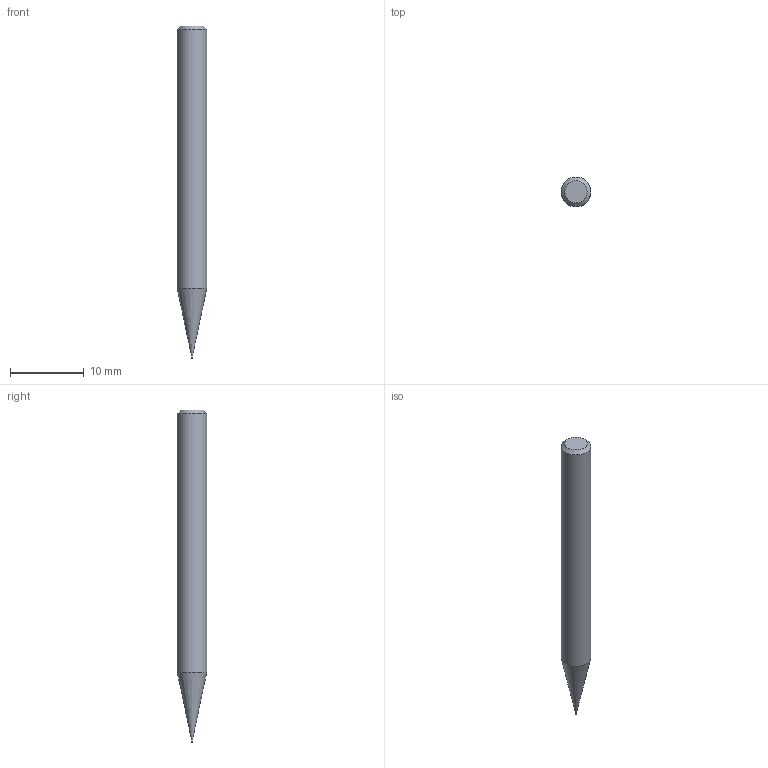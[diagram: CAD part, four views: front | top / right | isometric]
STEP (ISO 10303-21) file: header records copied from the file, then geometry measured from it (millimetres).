
FILE_DESCRIPTION((''),'2;1');
FILE_NAME('C:\Users\nsx150\AppData\Local\Temp\Mastercam 2021\RJ5U8K7RMU\TEMP.step','2021-04-21T16:39:14',(''),(''),'STEP Write','Mastercam 2021 ... CNC Software, Inc.','');
FILE_SCHEMA(('AUTOMOTIVE_DESIGN'));
Length unit declared in the file: millimetre
Products named in the file (1): None
Bounding box: 4 x 4 x 45 mm (x, y, z)
Volume: 485.3 mm3; surface area: 516.4 mm2
Topology: 2 solids, 2 shells, 9 faces, 12 edges, 7 vertices
Faces by surface type: plane 4, cylinder 3, cone 2
Full cylindrical faces by diameter (mm): 0.13 x1, 0.15 x1, 4 x1
Entity records: 211 total; most frequent: DIRECTION 36, CARTESIAN_POINT 25, AXIS2_PLACEMENT_3D 18, ORIENTED_EDGE 14, EDGE_LOOP 14, STYLED_ITEM 12, ADVANCED_FACE 9, FACE_BOUND 8
